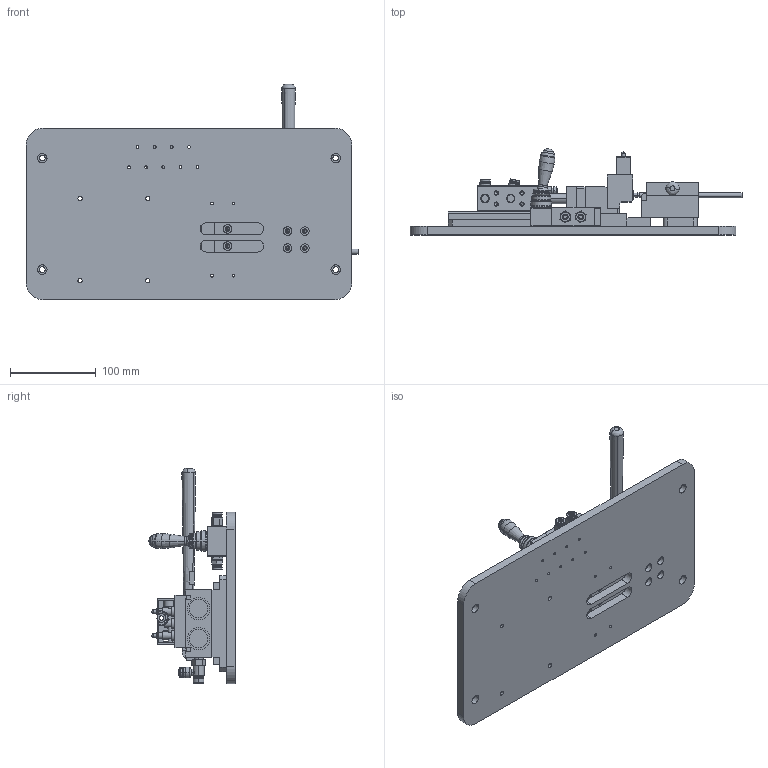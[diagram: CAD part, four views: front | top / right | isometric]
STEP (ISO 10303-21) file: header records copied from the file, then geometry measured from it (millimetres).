
FILE_DESCRIPTION (( 'STEP AP214' ), '1' );
FILE_NAME ('GZ28.00_V1源倛概脣奪馱蚾.STEP', '2021-04-11T17:01:49', ( 'hp' ), ( '' ), 'SwSTEP 2.0', 'SolidWorks 2017', '' );
FILE_SCHEMA (( 'AUTOMOTIVE_DESIGN' ));
Length unit declared in the file: millimetre
Products named in the file (21): 嘐隅釱; 賑雄菁釱-03; ァ詰菁釱; 菁釱-V02; 絳砃輸; 菁釱; 忒梟; PC601; BSLM01; GZ28.00_V1源倛概脣奪馱蚾; PTL601A; TR25X10S; _TR25-10_fr; _TR25-1010_b; 源倛概隅弇釱; 源倛概軞傖; ァ奪; 4HA21006; 奻揤輸; 盓傅啣; 狟揤輸
Assembly tree (25 placements, depth 3):
  GZ28.00_V1源倛概脣奪馱蚾
    忒梟
    菁釱
    絳砃輸  x2
    菁釱-V02
    ァ詰菁釱
    賑雄菁釱-03
    嘐隅釱
    狟揤輸
    盓傅啣
    奻揤輸
    4HA21006
    ァ奪
    源倛概軞傖
    源倛概隅弇釱
    TR25X10S
      _TR25-1010_b
      _TR25-10_fr
    PTL601A  x2
    BSLM01  x2
    PC601  x3
Bounding box: 387 x 100.34 x 251 mm (x, y, z)
Volume: 1605177.5 mm3; surface area: 403010.1 mm2
Topology: 28 solids, 28 shells, 1827 faces, 4687 edges, 3019 vertices
Faces by surface type: cylinder 716, plane 662, cone 326, bspline 117, torus 6
Entity records: 63991 total; most frequent: CARTESIAN_POINT 18842, ORIENTED_EDGE 7996, DIRECTION 7373, EDGE_CURVE 3998, AXIS2_PLACEMENT_3D 2735, VERTEX_POINT 2614, VECTOR 1903, LINE 1903
